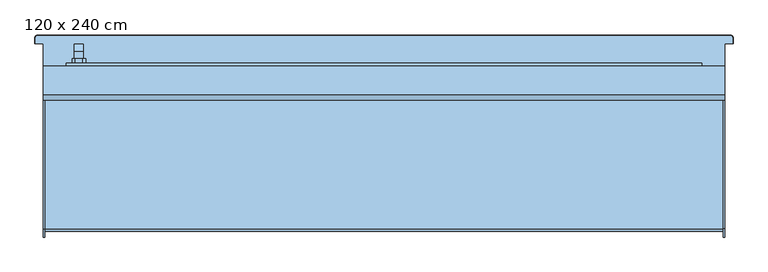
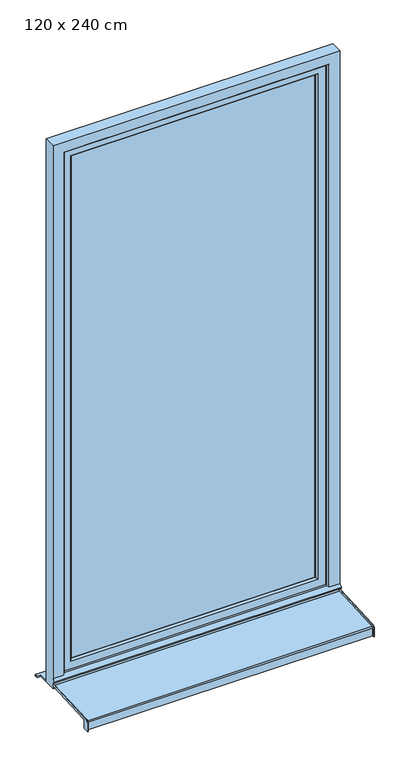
"""IFC4 building model written with IfcOpenShell, lengths in millimetres: window geometry, Fenêtre type 1 : 120 x 240 cm."""

from ifc_helpers import new_model, si_unit, frame, origin, place, context, project, spatial, polyline, circle_curve, outline, extrude, faceted_brep, source, transform, mapped, element, save
from ifc_brep_helpers import plane_surface, cylinder_surface, revolved_surface, advanced_brep


def window_120_x_240_cm_ed0a219b(model_context):
    return source(origin(), model_context, "Body", "SolidModel", [
        faceted_brep([(-545.5, 123.0, 1306.0), (-545.5, 123.0, 1294.0), (-529.5, 123.0, 1294.0), (-529.5, 123.0, 1306.0), (-529.5, 135.4852814, 1306.0), (-545.5, 135.4852814, 1306.0), (-529.5, 130.5147186, 1294.0), (-529.5, 137.0, 1287.5147186), (-529.5, 137.0, 1287.2282668), (-529.5, 139.7580139, 1208.5355339), (-529.5, 149.0, 1208.5355339), (-529.5, 149.0, 1292.4852814), (-545.5, 130.5147186, 1294.0), (-545.5, 149.0, 1292.4852814), (-545.5, 149.0, 1208.5355339), (-545.5, 139.7580139, 1208.5355339), (-545.5, 137.0099909, 1287.2286157), (-545.5, 137.0, 1287.5147186), (-533.0355339, 149.0, 1205.0), (-533.0355339, 139.8814775, 1205.0), (-541.9644661, 139.8814775, 1205.0), (-541.9644661, 149.0, 1205.0)], [[[0, 1, 2, 3]], [[3, 4, 5, 0]], [[2, 6, 7, 8, 9, 10, 11, 4, 3]], [[1, 12, 6, 2]], [[0, 5, 13, 14, 15, 16, 17, 12, 1]], [[4, 11, 13, 5]], [[6, 12, 17, 7]], [[18, 19, 20, 21]], [[11, 10, 18, 21, 14, 13]], [[17, 16, 8, 7]], [[16, 15, 20, 19, 9, 8]], [[9, 19, 18, 10]], [[14, 21, 20, 15]]]),
        extrude(outline(polyline([(1330.0, -544.5), (1325.0, -549.5), (1275.0, -549.5), (1270.0, -544.5), (1270.0, -530.5), (1275.0, -525.5), (1325.0, -525.5), (1330.0, -530.5), (1330.0, -544.5)])), frame((0.0, 115.0, 0.0), z_axis=(0.0, 1.0, 0.0), x_axis=(0.0, 0.0, 1.0)), (0.0, 0.0, 1.0), 8.0),
        advanced_brep(
        [(-600.0, -165.0, 762.0), (-600.0, -191.5, 762.0), (-600.0, -191.5, 795.1063906), (-600.0, -177.2850393, 810.0858337), (-600.0, 60.0, 822.5214156), (-600.0, 60.0, 811.0056336), (-600.0, -165.0, 799.2138833), (600.0, -165.0, 799.2138833), (600.0, 60.0, 811.0056336), (600.0, 60.0, 822.5214156), (600.0, -177.2850393, 810.0858337), (600.0, -191.5, 795.1063906), (600.0, -191.5, 762.0), (600.0, -165.0, 762.0), (-598.0, 60.0, 822.5214156), (-598.0, 60.0, 812.5076922), (598.0, 60.0, 812.5076922), (598.0, 60.0, 822.5214156), (-598.0, -176.7616798, 800.0995383), (598.0, -176.7616798, 800.0995383), (598.0, -181.5, 795.1063906), (-598.0, -181.5, 795.1063906), (-598.0, -181.5, 762.0), (598.0, -181.5, 762.0), (-598.0, -180.0, 762.0), (598.0, -180.0, 762.0), (598.0, -165.0, 762.0), (598.0, -191.5, 762.0), (-598.0, -191.5, 762.0), (-598.0, -165.0, 762.0), (-598.0, -170.0, 772.0), (598.0, -170.0, 772.0), (-598.0, -171.0606602, 773.0606602), (598.0, -171.0606602, 773.0606602), (-598.0, -180.0, 764.1213203), (598.0, -180.0, 764.1213203), (-598.0, -180.0, 795.0728058), (598.0, -180.0, 795.0728058), (-598.0, -165.0, 799.2138833), (598.0, -165.0, 799.2138833), (598.0, -176.649637, 798.6033517), (-598.0, -176.649637, 798.6033517), (598.0, -191.5, 795.1063906), (598.0, -177.2850393, 810.0858337), (-598.0, -177.2850393, 810.0858337), (-598.0, -191.5, 795.1063906)],
        [
            (0, 1),
            (1, 2),
            (2, 3, circle_curve(frame((-600.0, -176.5, 795.1063906), z_axis=(-1.0, 0.0, 0.0), x_axis=(0.0, -0.05233595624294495, 0.9986295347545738)), 15.0)),
            (3, 4),
            (4, 5),
            (5, 6),
            (6, 0),
            (7, 8),
            (8, 9),
            (9, 10),
            (10, 11, circle_curve(frame((600.0, -176.5, 795.1063906), z_axis=(1.0, 0.0, 0.0), x_axis=(0.0, -1.0, 0.0)), 15.0)),
            (11, 12),
            (12, 13),
            (13, 7),
            (14, 15),
            (15, 16),
            (16, 17),
            (17, 9),
            (8, 5),
            (4, 14),
            (18, 19),
            (19, 16),
            (15, 18),
            (20, 21),
            (21, 22),
            (22, 23),
            (23, 20),
            (24, 25),
            (25, 26),
            (26, 13),
            (12, 27),
            (27, 23),
            (22, 28),
            (28, 1),
            (0, 29),
            (29, 24),
            (30, 31),
            (31, 25),
            (24, 30),
            (32, 33),
            (33, 31),
            (30, 32),
            (34, 35),
            (35, 33),
            (32, 34),
            (36, 37),
            (37, 35),
            (34, 36),
            (38, 6),
            (7, 39),
            (39, 40),
            (40, 41),
            (41, 38),
            (41, 36, circle_curve(frame((-598.0, -176.4646089, 795.0728058), z_axis=(1.0, 0.0, 0.0), x_axis=(0.0, 1.0, 0.0)), 3.5353911)),
            (29, 38),
            (37, 40, circle_curve(frame((598.0, -176.4646089, 795.0728058), z_axis=(-1.0, 0.0, 0.0), x_axis=(0.0, 1.0, 0.0)), 3.5353911)),
            (39, 26),
            (18, 21, circle_curve(frame((-598.0, -176.5, 795.1063906), z_axis=(1.0, 0.0, 0.0), x_axis=(0.0, 1.0, 0.0)), 5.0)),
            (20, 19, circle_curve(frame((598.0, -176.5, 795.1063906), z_axis=(-1.0, 0.0, 0.0), x_axis=(0.0, 1.0, 0.0)), 5.0)),
            (27, 42),
            (42, 43, circle_curve(frame((598.0, -176.5, 795.1063906), z_axis=(-1.0, 0.0, 0.0), x_axis=(0.0, -1.0, 0.0)), 15.0)),
            (43, 17),
            (11, 42),
            (10, 43),
            (14, 44),
            (44, 45, circle_curve(frame((-598.0, -176.5, 795.1063906), z_axis=(1.0, 0.0, 0.0), x_axis=(0.0, -0.05233595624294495, 0.9986295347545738)), 15.0)),
            (45, 28),
            (3, 44),
            (2, 45),
        ],
        [
            plane_surface(frame((-600.0, 60.0, 811.0056336), z_axis=(-1.0, 0.0, 0.0), x_axis=(0.0, 0.0, 1.0))),
            plane_surface(frame((600.0, 60.0, 811.0056336), z_axis=(1.0, 0.0, 0.0), x_axis=(0.0, 0.0, -1.0))),
            plane_surface(frame((-600.0, 60.0, 811.0056336), z_axis=(0.0, 1.0, 0.0), x_axis=(1.0, 0.0, 0.0))),
            plane_surface(frame((-600.0, 60.0, 812.5076922), z_axis=(0.0, -0.05233595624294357, 0.9986295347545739), x_axis=(1.0, 0.0, 0.0))),
            plane_surface(frame((-600.0, -181.5, 795.1063906), z_axis=(0.0, -1.0, 0.0), x_axis=(1.0, 0.0, 0.0))),
            plane_surface(frame((-600.0, -181.5, 762.0), z_axis=(0.0, 0.0, -1.0), x_axis=(1.0, 0.0, 0.0))),
            plane_surface(frame((-600.0, -180.0, 762.0), z_axis=(0.0, 0.7071067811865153, -0.7071067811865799), x_axis=(1.0, 0.0, 0.0))),
            plane_surface(frame((-600.0, -170.0, 772.0), z_axis=(0.0, 0.7071067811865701, 0.707106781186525), x_axis=(1.0, 0.0, 0.0))),
            plane_surface(frame((-600.0, -171.0606602, 773.0606602), z_axis=(0.0, -0.7071067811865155, 0.7071067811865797), x_axis=(1.0, 0.0, 0.0))),
            plane_surface(frame((-600.0, -180.0, 764.1213203), z_axis=(0.0, 1.0, 0.0), x_axis=(1.0, 0.0, 0.0))),
            plane_surface(frame((-600.0, -176.649637, 798.6033517), z_axis=(0.0, 0.052335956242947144, -0.9986295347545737), x_axis=(1.0, 0.0, 0.0))),
            plane_surface(frame((-598.0, -180.0, 798.4277666), z_axis=(1.0, 0.0, 0.0), x_axis=(0.0, 0.9986295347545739, 0.05233595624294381))),
            plane_surface(frame((-600.0, -165.0, 762.0), z_axis=(0.0, 1.0, 0.0), x_axis=(1.0, 0.0, 0.0))),
            plane_surface(frame((598.0, -180.0, 798.4277666), z_axis=(-1.0, 0.0, 0.0), x_axis=(0.0, 0.0, -1.0))),
            plane_surface(frame((598.0, -165.0, 762.0), z_axis=(0.0, 1.0, 0.0), x_axis=(1.0, 0.0, 0.0))),
            cylinder_surface(frame((600.0, -176.5, 795.1063906), z_axis=(-1.0, 0.0, 0.0), x_axis=(0.0, 1.0, 0.0)), 5.0),
            revolved_surface(polyline([(598.0, -172.9292178, 795.0728058), (-598.0, -172.9292178, 795.0728058)]), (600.0, -176.4646089, 795.0728058), (1.0, 0.0, 0.0)),
            plane_surface(frame((598.0, -181.5, 762.0), z_axis=(-1.0, 0.0, 0.0), x_axis=(0.0, 0.0, 1.0))),
            plane_surface(frame((598.0, -191.5, 762.0), z_axis=(0.0, -1.0, 0.0), x_axis=(0.0, 0.0, 1.0))),
            cylinder_surface(frame((600.0, -176.5, 795.1063906), z_axis=(1.0, 0.0, 0.0), x_axis=(0.0, -1.0, 0.0)), 15.0),
            plane_surface(frame((598.0, -177.2850393, 810.0858337), z_axis=(0.0, -0.05233595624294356, 0.9986295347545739), x_axis=(0.0, 0.9986295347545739, 0.05233595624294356))),
            plane_surface(frame((-598.0, 60.0, 822.5214156), z_axis=(1.0, 0.0, 0.0), x_axis=(0.0, 0.9986295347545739, 0.05233595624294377))),
            plane_surface(frame((-600.0, 60.0, 822.5214156), z_axis=(0.0, -0.05233595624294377, 0.9986295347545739), x_axis=(1.0, 0.0, 0.0))),
            cylinder_surface(frame((-600.0, -176.5, 795.1063906), z_axis=(-1.0, 0.0, 0.0), x_axis=(0.0, -0.05233595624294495, 0.9986295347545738)), 15.0),
            plane_surface(frame((-598.0, -191.5, 795.1063906), z_axis=(0.0, -1.0, 0.0), x_axis=(0.0, 0.0, -1.0))),
        ],
        [
            (0, [[1, 2, 3, 4, 5, 6, 7]]),
            (1, [[8, 9, 10, 11, 12, 13, 14]]),
            (2, [[15, 16, 17, 18, -9, 19, -5, 20]]),
            (3, [[21, 22, -16, 23]]),
            (4, [[24, 25, 26, 27]]),
            (5, [[28, 29, 30, -13, 31, 32, -26, 33, 34, -1, 35, 36]]),
            (6, [[37, 38, -28, 39]]),
            (7, [[40, 41, -37, 42]]),
            (8, [[43, 44, -40, 45]]),
            (9, [[46, 47, -43, 48]]),
            (10, [[49, -6, -19, -8, 50, 51, 52, 53]]),
            (11, [[-53, 54, -48, -45, -42, -39, -36, 55]]),
            (12, [[-35, -7, -49, -55]]),
            (13, [[-38, -41, -44, -47, 56, -51, 57, -29]]),
            (14, [[-50, -14, -30, -57]]),
            (15, [[-21, 58, -24, 59]]),
            (16, [[-52, -56, -46, -54]]),
            (17, [[60, 61, 62, -17, -22, -59, -27, -32]]),
            (18, [[-12, 63, -60, -31]]),
            (19, [[64, -61, -63, -11]]),
            (20, [[-10, -18, -62, -64]]),
            (21, [[65, 66, 67, -33, -25, -58, -23, -15]]),
            (22, [[68, -65, -20, -4]]),
            (23, [[69, -66, -68, -3]]),
            (24, [[-34, -67, -69, -2]]),
        ],
    ),
        extrude(outline(polyline([(-510.0, 105.0), (510.0, 105.0), (510.0, 85.0), (-510.0, 85.0), (-510.0, 105.0)])), frame((0.0, 0.0, 890.0), z_axis=(0.0, 0.0, 1.0), x_axis=(1.0, 0.0, 0.0)), (0.0, 0.0, 1.0), 2220.0),
        faceted_brep([(-560.0, 115.0, 840.0), (560.0, 115.0, 840.0), (560.0, 75.0, 840.0), (-560.0, 75.0, 840.0), (560.0, 115.0, 3160.0), (560.0, 75.0, 3160.0), (-560.0, 75.0, 3160.0), (517.0710678, 75.0, 3117.0710678), (517.0710678, 75.0, 882.9289322), (-517.0710678, 75.0, 882.9289322), (-517.0710678, 75.0, 3117.0710678), (-560.0, 115.0, 3160.0), (517.0710678, 115.0, 882.9289322), (517.0710678, 115.0, 3117.0710678), (-517.0710678, 115.0, 3117.0710678), (-517.0710678, 115.0, 882.9289322), (-510.0, 107.9289322, 890.0), (510.0, 107.9289322, 890.0), (510.0, 107.9289322, 3110.0), (510.0, 82.0710678, 890.0), (510.0, 82.0710678, 3110.0), (-510.0, 82.0710678, 890.0), (-510.0, 107.9289322, 3110.0), (-510.0, 82.0710678, 3110.0)], [[[0, 1, 2, 3]], [[1, 4, 5, 2]], [[2, 5, 6, 3], [7, 8, 9, 10]], [[4, 1, 0, 11], [12, 13, 14, 15]], [[16, 17, 12, 15]], [[17, 18, 13, 12]], [[19, 20, 18, 17]], [[9, 8, 19, 21]], [[8, 7, 20, 19]], [[11, 0, 3, 6]], [[22, 16, 15, 14]], [[23, 21, 16, 22]], [[10, 9, 21, 23]], [[21, 19, 17, 16]], [[4, 11, 6, 5]], [[18, 22, 14, 13]], [[7, 10, 23, 20]], [[20, 23, 22, 18]]]),
        faceted_brep([(600.0, 60.0, 800.0), (600.0, 110.0, 800.0), (600.0, 110.0, 3200.0), (600.0, 60.0, 3200.0), (600.0, 60.0, 845.0), (600.0, 50.0, 835.0), (600.0, 50.0, 830.0), (600.0, 60.0, 830.0), (-600.0, 60.0, 830.0), (-600.0, 60.0, 800.0), (-600.0, 50.0, 830.0), (-600.0, 50.0, 835.0), (555.0, 60.0, 845.0), (550.0, 65.0, 850.0), (-550.0, 65.0, 850.0), (-555.0, 60.0, 845.0), (-600.0, 60.0, 845.0), (-600.0, 60.0, 3200.0), (-555.0, 60.0, 3155.0), (555.0, 60.0, 3155.0), (-600.0, 110.0, 800.0), (-600.0, 110.0, 3200.0), (560.0, 110.0, 840.0), (560.0, 110.0, 3160.0), (-560.0, 110.0, 3160.0), (-560.0, 110.0, 840.0), (-560.0, 75.0, 840.0), (560.0, 75.0, 840.0), (-560.0, 75.0, 3160.0), (560.0, 75.0, 3160.0), (550.0, 75.0, 850.0), (550.0, 75.0, 3150.0), (-550.0, 75.0, 3150.0), (-550.0, 75.0, 850.0), (-550.0, 65.0, 3150.0), (550.0, 65.0, 3150.0)], [[[0, 1, 2, 3, 4, 5, 6, 7]], [[7, 8, 9, 0]], [[6, 10, 8, 7]], [[5, 11, 10, 6]], [[5, 4, 12, 13, 14, 15, 16, 11]], [[17, 16, 15, 18, 19, 12, 4, 3]], [[1, 20, 21, 2], [22, 23, 24, 25]], [[0, 9, 20, 1]], [[9, 8, 10, 11, 16, 17, 21, 20]], [[25, 26, 27, 22]], [[26, 25, 24, 28]], [[22, 27, 29, 23]], [[29, 27, 26, 28], [30, 31, 32, 33]], [[33, 14, 13, 30]], [[34, 14, 33, 32]], [[31, 30, 13, 35]], [[35, 13, 12, 19]], [[18, 15, 14, 34]], [[3, 2, 21, 17]], [[28, 24, 23, 29]], [[31, 35, 34, 32]], [[18, 34, 35, 19]]]),
        advanced_brep(
        [(600.0, 150.0, 805.0), (613.9971508, 150.0, 805.0), (613.9971508, 160.0, 805.0), (610.0, 163.9971508, 805.0), (-610.0, 163.9971508, 805.0), (-613.9971508, 160.0, 805.0), (-613.9971508, 150.0, 805.0), (-600.0, 150.0, 805.0), (-600.0, 110.0, 805.0), (600.0, 110.0, 805.0), (-600.0, 150.0, 800.0), (-613.9971508, 150.0, 800.0), (-613.9971508, 160.0, 800.0), (-610.0, 163.9971508, 800.0), (610.0, 163.9971508, 800.0), (613.9971508, 160.0, 800.0), (613.9971508, 150.0, 800.0), (600.0, 150.0, 800.0), (600.0, 110.0, 800.0), (-600.0, 110.0, 800.0), (-615.0, 160.0, 801.0028492), (-615.0, 150.0, 801.0028492), (-615.0, 150.0, 803.9971508), (-615.0, 160.0, 803.9971508), (615.0, 150.0, 801.0028492), (615.0, 150.0, 803.9971508), (615.0, 160.0, 801.0028492), (615.0, 160.0, 803.9971508), (610.0, 165.0, 801.0028492), (-610.0, 165.0, 801.0028492), (-610.0, 165.0, 803.9971508), (610.0, 165.0, 803.9971508)],
        [
            (0, 1),
            (1, 2),
            (2, 3, circle_curve(frame((610.0, 160.0, 805.0), z_axis=(0.0, 0.0, 1.0), x_axis=(0.0, 1.0, 0.0)), 3.9971508)),
            (3, 4),
            (4, 5, circle_curve(frame((-610.0, 160.0, 805.0), z_axis=(0.0, 0.0, 1.0), x_axis=(-1.0, 0.0, 0.0)), 3.9971508)),
            (5, 6),
            (6, 7),
            (7, 8),
            (8, 9),
            (9, 0),
            (10, 11),
            (11, 12),
            (12, 13, circle_curve(frame((-610.0, 160.0, 800.0), z_axis=(0.0, 0.0, -1.0), x_axis=(-1.0, 0.0, 0.0)), 3.9971508)),
            (13, 14),
            (14, 15, circle_curve(frame((610.0, 160.0, 800.0), z_axis=(0.0, 0.0, -1.0), x_axis=(0.0, 1.0, 0.0)), 3.9971508)),
            (15, 16),
            (16, 17),
            (17, 18),
            (18, 19),
            (19, 10),
            (20, 21),
            (21, 22),
            (22, 23),
            (23, 20),
            (6, 22),
            (21, 11),
            (10, 7),
            (19, 8),
            (18, 9),
            (17, 0),
            (16, 24),
            (24, 25),
            (25, 1),
            (24, 26),
            (26, 27),
            (27, 25),
            (28, 29),
            (29, 30),
            (30, 31),
            (31, 28),
            (31, 27, circle_curve(frame((610.0, 160.0, 803.9971508), z_axis=(0.0, 0.0, -1.0), x_axis=(0.0, 1.0, 0.0)), 5.0)),
            (26, 28, circle_curve(frame((610.0, 160.0, 801.0028492), z_axis=(0.0, 0.0, 1.0), x_axis=(0.0, 1.0, 0.0)), 5.0)),
            (23, 30, circle_curve(frame((-610.0, 160.0, 803.9971508), z_axis=(0.0, 0.0, -1.0), x_axis=(0.0, 1.0, 0.0)), 5.0)),
            (29, 20, circle_curve(frame((-610.0, 160.0, 801.0028492), z_axis=(0.0, 0.0, 1.0), x_axis=(0.0, 1.0, 0.0)), 5.0)),
            (5, 23),
            (20, 12),
            (4, 30),
            (29, 13),
            (3, 31),
            (28, 14),
            (2, 27),
            (26, 15),
        ],
        [
            plane_surface(frame((-615.0, 150.0, 805.0), z_axis=(0.0, 0.0, 1.0), x_axis=(0.0, 1.0, 0.0))),
            plane_surface(frame((-615.0, 150.0, 800.0), z_axis=(0.0, 0.0, -1.0), x_axis=(0.0, -1.0, 0.0))),
            plane_surface(frame((-615.0, 160.0, 800.0), z_axis=(-1.0, 0.0, 0.0), x_axis=(0.0, 0.0, 1.0))),
            plane_surface(frame((-615.0, 150.0, 800.0), z_axis=(0.0, -1.0, 0.0), x_axis=(0.0, 0.0, 1.0))),
            plane_surface(frame((-600.0, 150.0, 800.0), z_axis=(-1.0, 0.0, 0.0), x_axis=(0.0, 0.0, 1.0))),
            plane_surface(frame((-600.0, 110.0, 800.0), z_axis=(0.0, -1.0, 0.0), x_axis=(0.0, 0.0, 1.0))),
            plane_surface(frame((600.0, 110.0, 800.0), z_axis=(1.0, 0.0, 0.0), x_axis=(0.0, 0.0, 1.0))),
            plane_surface(frame((600.0, 150.0, 800.0), z_axis=(0.0, -1.0, 0.0), x_axis=(0.0, 0.0, 1.0))),
            plane_surface(frame((615.0, 150.0, 800.0), z_axis=(1.0, 0.0, 0.0), x_axis=(0.0, 0.0, 1.0))),
            plane_surface(frame((610.0, 165.0, 800.0), z_axis=(0.0, 1.0, 0.0), x_axis=(0.0, 0.0, 1.0))),
            cylinder_surface(frame((610.0, 160.0, 805.0), z_axis=(0.0, 0.0, -1.0), x_axis=(0.0, 1.0, 0.0)), 5.0),
            cylinder_surface(frame((-610.0, 160.0, 805.0), z_axis=(0.0, 0.0, -1.0), x_axis=(0.0, 1.0, 0.0)), 5.0),
            plane_surface(frame((-613.9971508, 150.0, 805.0), z_axis=(-0.7071067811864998, 0.0, 0.7071067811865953), x_axis=(0.0, 1.0, 0.0))),
            plane_surface(frame((-615.0, 150.0, 801.0028492), z_axis=(-0.7071067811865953, 0.0, -0.7071067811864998), x_axis=(0.0, 1.0, 0.0))),
            revolved_surface(polyline([(-615.0, 160.0, 803.9971508), (-613.9971508, 160.0, 805.0)]), (-610.0, 160.0, 805.0), (0.0, 0.0, 1.0)),
            revolved_surface(polyline([(-613.9971508, 160.0, 800.0), (-615.0, 160.0, 801.0028492)]), (-610.0, 160.0, 805.0), (0.0, 0.0, 1.0)),
            plane_surface(frame((-610.0, 163.9971508, 805.0), z_axis=(0.0, 0.7071067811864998, 0.7071067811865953), x_axis=(1.0, 0.0, 0.0))),
            plane_surface(frame((-610.0, 165.0, 801.0028492), z_axis=(0.0, 0.7071067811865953, -0.7071067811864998), x_axis=(1.0, 0.0, 0.0))),
            revolved_surface(polyline([(610.0, 165.0, 803.9971508), (610.0, 163.9971508, 805.0)]), (610.0, 160.0, 805.0), (0.0, 0.0, 1.0)),
            revolved_surface(polyline([(610.0, 163.9971508, 800.0), (610.0, 165.0, 801.0028492)]), (610.0, 160.0, 805.0), (0.0, 0.0, 1.0)),
            plane_surface(frame((613.9971508, 160.0, 805.0), z_axis=(0.7071067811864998, 0.0, 0.7071067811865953), x_axis=(0.0, -1.0, 0.0))),
            plane_surface(frame((615.0, 160.0, 801.0028492), z_axis=(0.7071067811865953, 0.0, -0.7071067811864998), x_axis=(0.0, -1.0, 0.0))),
        ],
        [
            (0, [[1, 2, 3, 4, 5, 6, 7, 8, 9, 10]]),
            (1, [[11, 12, 13, 14, 15, 16, 17, 18, 19, 20]]),
            (2, [[21, 22, 23, 24]]),
            (3, [[-7, 25, -22, 26, -11, 27]]),
            (4, [[-27, -20, 28, -8]]),
            (5, [[-28, -19, 29, -9]]),
            (6, [[-29, -18, 30, -10]]),
            (7, [[-17, 31, 32, 33, -1, -30]]),
            (8, [[34, 35, 36, -32]]),
            (9, [[37, 38, 39, 40]]),
            (10, [[41, -35, 42, -40]]),
            (11, [[43, -38, 44, -24]]),
            (12, [[-23, -25, -6, 45]]),
            (13, [[-12, -26, -21, 46]]),
            (14, [[-5, 47, -43, -45]]),
            (15, [[-44, 48, -13, -46]]),
            (16, [[-4, 49, -39, -47]]),
            (17, [[-37, 50, -14, -48]]),
            (18, [[-3, 51, -41, -49]]),
            (19, [[-42, 52, -15, -50]]),
            (20, [[-2, -33, -36, -51]]),
            (21, [[-34, -31, -16, -52]]),
        ],
    ),
    ])


if __name__ == "__main__":
    model = new_model("IFC4")
    model_context = context("Model", 3, world=origin())
    ifc_project = project(units=[si_unit("LENGTHUNIT", "METRE", prefix="MILLI")], contexts=[model_context])
    site = spatial("IfcSite", under=ifc_project)
    building = spatial("IfcBuilding", under=site)
    placement = place(None, origin())
    window_120_x_240_cm_shape = window_120_x_240_cm_ed0a219b(model_context)
    element("IfcWindow", 1, ObjectType="Fenêtre type 1 : 120 x 240 cm", at=placement, inside=building, context=model_context, shape_type="MappedRepresentation", body=[
        mapped(window_120_x_240_cm_shape, transform((0.0, 0.0, 0.0), x_axis=(1.0, 0.0, 0.0), y_axis=(0.0, 1.0, 0.0), z_axis=(0.0, 0.0, 1.0))),
    ])
    save(model, "model.ifc")
